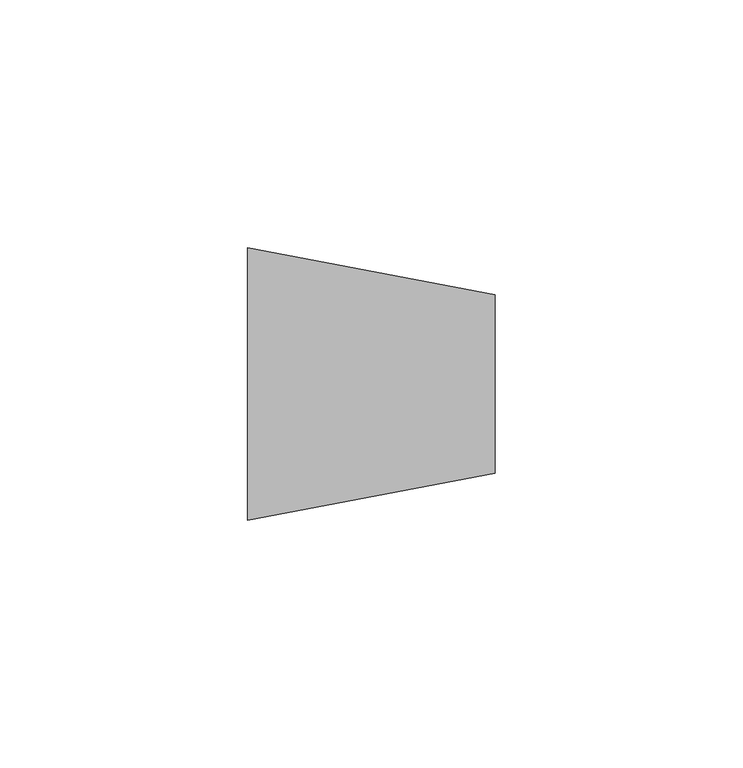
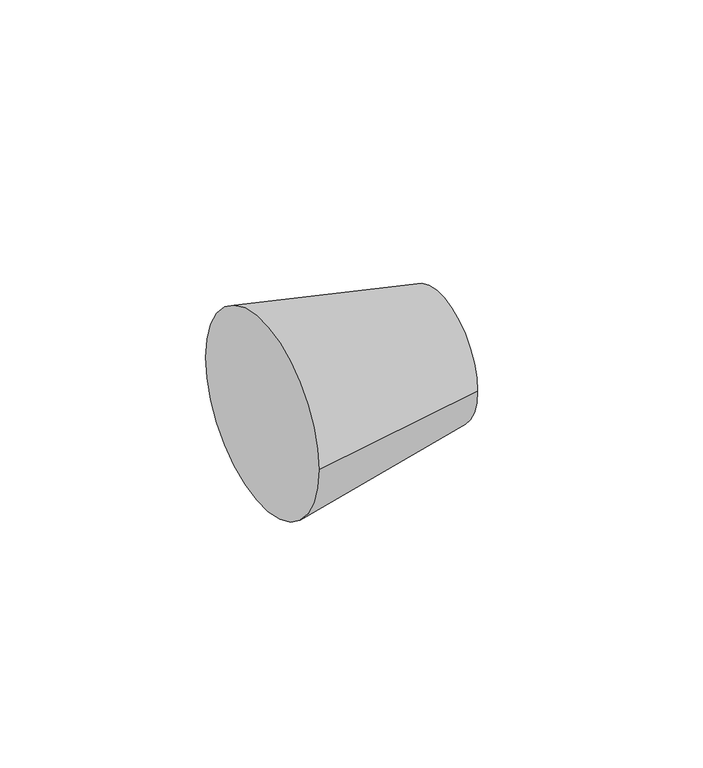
"""IFC4 building model written with IfcOpenShell, lengths in millimetres: pipe fitting geometry, ADSK_ДетальЧугуннаяРезьбовая_МуфтаПереходная_ГОСТ8957-75 : Неоцинкованные."""

from ifc_helpers import new_model, si_unit, frame, origin, place, context, project, spatial, polyline, circle_curve, source, transform, mapped, element, save
from ifc_brep_helpers import plane_surface, revolved_surface, advanced_brep


def pipe_fitting_c3f37ace(model_context):
    return source(origin(), model_context, "Body", "AdvancedBrep", [
        advanced_brep(
        [(50.0, -18.0, 0.0), (50.0, 18.0, 0.0), (0.0, -27.5, 0.0), (0.0, 27.5, 0.0)],
        [
            (0, 1, circle_curve(frame((50.0, 0.0, 0.0), z_axis=(1.0, 0.0, 0.0), x_axis=(0.0, -1.0, 0.0)), 18.0)),
            (1, 0, circle_curve(frame((50.0, 0.0, 0.0), z_axis=(1.0, 0.0, 0.0), x_axis=(0.0, 1.0, 0.0)), 18.0)),
            (2, 3, circle_curve(frame((0.0, 0.0, 0.0), z_axis=(-1.0, 0.0, 0.0), x_axis=(0.0, 1.0, 0.0)), 27.5)),
            (3, 2, circle_curve(frame((0.0, 0.0, 0.0), z_axis=(-1.0, 0.0, 0.0), x_axis=(0.0, -1.0, 0.0)), 27.5)),
            (3, 1),
            (0, 2),
        ],
        [
            plane_surface(frame((50.0, 0.0, 0.0), z_axis=(1.0, 0.0, 0.0), x_axis=(0.0, 0.0, -1.0))),
            plane_surface(frame((0.0, 0.0, 0.0), z_axis=(-1.0, 0.0, 0.0), x_axis=(0.0, 0.0, -1.0))),
            revolved_surface(polyline([(49.999999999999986, -17.999999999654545, 0.0), (0.0, -27.5, 0.0)]), (144.7368421, 0.0, 0.0), (-1.0, 0.0, 0.0)),
            revolved_surface(polyline([(49.999999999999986, 17.999999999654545, 0.0), (0.0, 27.5, 0.0)]), (144.7368421, 0.0, 0.0), (-1.0, 0.0, 0.0)),
        ],
        [
            (0, [[1, 2]]),
            (1, [[3, 4]]),
            (2, [[-4, 5, -1, 6]]),
            (3, [[-3, -6, -2, -5]]),
        ],
    ),
    ])


if __name__ == "__main__":
    model = new_model("IFC4")
    model_context = context("Model", 3, world=origin())
    ifc_project = project(units=[si_unit("LENGTHUNIT", "METRE", prefix="MILLI")], contexts=[model_context])
    site = spatial("IfcSite", under=ifc_project)
    building = spatial("IfcBuilding", under=site)
    placement = place(None, origin())
    pipe_fitting_shape = pipe_fitting_c3f37ace(model_context)
    element("IfcPipeFitting", 1, ObjectType="ADSK_ДетальЧугуннаяРезьбовая_МуфтаПереходная_ГОСТ8957-75 : Неоцинкованные", at=placement, inside=building, context=model_context, shape_type="MappedRepresentation", body=[
        mapped(pipe_fitting_shape, transform((0.0, 0.0, 0.0), x_axis=(1.0, 0.0, 0.0), y_axis=(0.0, 1.0, 0.0), z_axis=(0.0, 0.0, 1.0))),
    ])
    save(model, "model.ifc")
